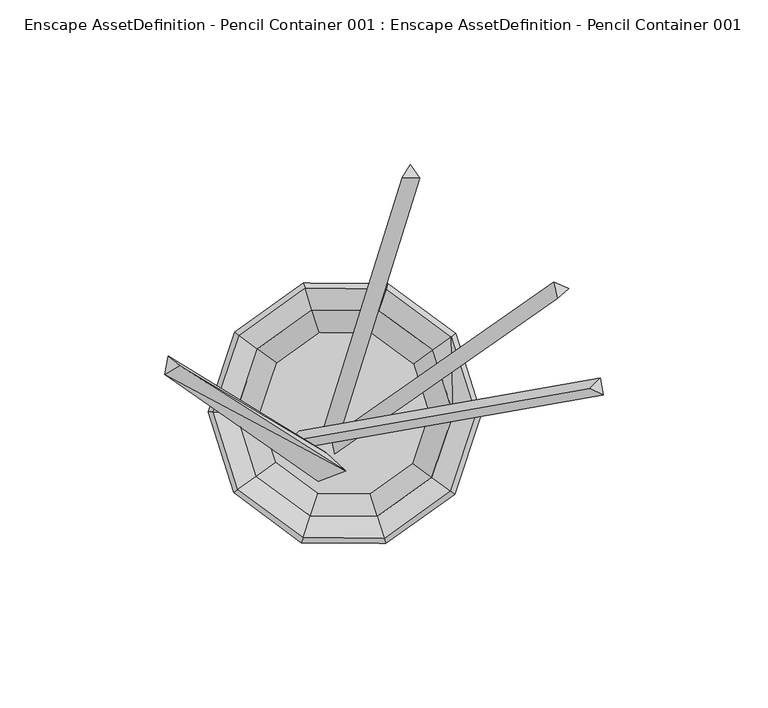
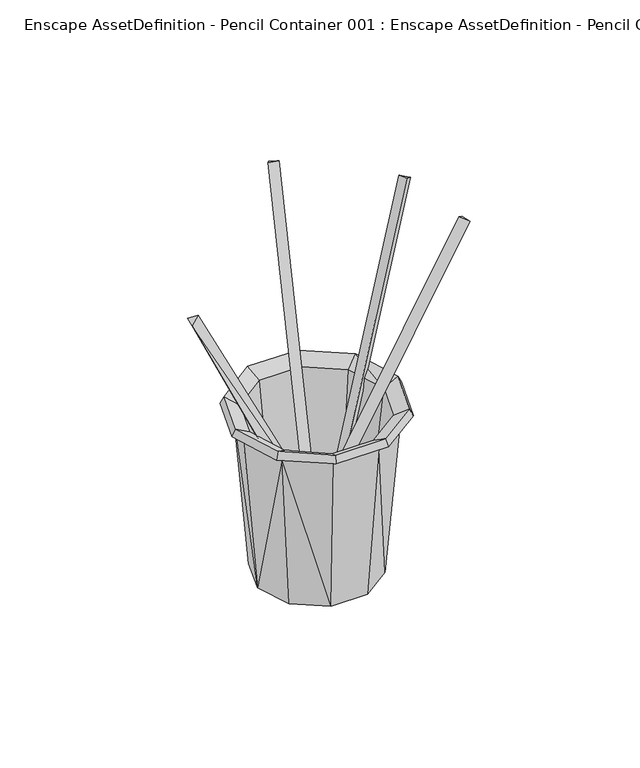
"""IFC4 building model written with IfcOpenShell, lengths in millimetres: geographic element geometry, Enscape AssetDefinition - Pencil Container 001 : Enscape AssetDefinition - Pencil Container 001."""

from ifc_helpers import new_model, si_unit, origin, place, context, project, spatial, triangles, source, transform, mapped, element, save


def enscape_assetdefinition_pencil_container_001_enscape_4b7912f9(model_context):
    return source(origin(), model_context, "Body", "Tessellation", [
        triangles([(-23.666129, 17.1942709, 0.0), (-9.0392392, 27.8211784, 0.0), (9.0392392, 27.8211784, 0.0), (-10.8405152, 34.2406584, 79.219138), (-12.5360137, 39.5962204, 82.6296493), (13.1326729, 39.402128, 82.6296493), (-29.2527498, 0.0, 0.0), (-23.666129, -17.1942709, 0.0), (-9.0392392, -27.8211784, 0.0), (-29.2147547, -20.8902742, 79.219138), (-35.9145956, 0.2711155, 79.219138), (-33.4149889, 24.6653526, 82.6286229), (-41.5320262, 0.3142476, 82.6296493), (-13.1326729, -39.402128, 82.6296493), (-33.7836664, -24.158039, 82.6286229), (-32.4260367, -23.1865412, 86.1243761), (-39.8622017, 0.3019241, 86.1243761), (-32.0717365, 23.6733188, 86.1243761), (-12.0317783, 38.0044435, 86.1243761), (-26.525166, 19.5788558, 82.1942199), (-32.9682684, 0.2495495, 82.1952554), (-20.9416224, -14.9739986, 16.2104499), (-25.7446813, 0.1940941, 16.2104499), (-20.7136385, 15.2892739, 16.2104499), (-9.951172, 31.430919, 82.1942199), (-7.7709516, 24.5441709, 16.2104499), (20.9416224, 14.9739986, 16.2104499), (8.140655, 24.4240179, 16.2104499), (10.4245976, 31.2768745, 82.1942199), (20.7136385, -15.2892739, 16.2104499), (12.6048197, 37.8175386, 86.1243761), (26.8178466, 19.1752626, 82.1942199), (32.4260367, 23.1865412, 86.1243761), (-28.8953702, 21.3287831, 79.219138), (33.7836664, 24.158039, 82.6286229), (11.3570716, 34.0732677, 79.219138), (23.666129, 17.1942709, 0.0), (29.2147547, 20.8902742, 79.219138), (41.5320262, -0.3142476, 82.6296493), (35.9145956, -0.2711155, 79.219138), (28.8963966, -21.3298095, 79.219138), (33.4160176, -24.6653526, 82.6296493), (29.2527498, 0.0, 0.0), (0.0, 0.0, 0.0), (23.666129, -17.1942709, 0.0), (10.8405152, -34.2406584, 79.219138), (9.0392392, -27.8211784, 0.0), (-11.3570716, -34.0732677, 79.219138), (12.5360137, -39.5962204, 82.6296493), (12.0317783, -38.0044435, 86.1243761), (-26.8178466, -19.1752626, 82.1942199), (-12.6048197, -37.8175386, 86.1243761), (32.072763, -23.6733188, 86.1254025), (-10.4245976, -31.2768745, 82.1942199), (7.7709516, -24.5441709, 16.2104499), (-8.140655, -24.4240179, 16.2104499), (9.951172, -31.430919, 82.1952554), (39.8622017, -0.3008972, 86.1243761), (26.525166, -19.5788558, 82.1952554), (32.9672396, -0.2495495, 82.1952554), (25.7436526, -0.1940941, 16.2104499), (-8.0543917, -20.736232, 23.4843564), (0.2505765, -17.5988917, 26.108222), (-53.5453236, 17.4109581, 138.1806099), (-54.735558, 11.7750409, 138.2607104), (-50.1389181, 14.4276611, 140.5015257), (-5.7807172, -11.8808178, 22.0312179), (64.6559236, 34.8917474, 159.2434231), (68.1177808, 37.883264, 156.6339349), (63.4893024, 39.9114946, 158.1106798), (-4.1386197, -7.2852033, 18.5940083), (-2.9627589, -12.3614309, 19.7421407), (0.5247729, -9.361702, 17.0371459), (-3.7052457, -0.1129648, 17.5537057), (17.5270052, 71.689524, 161.3856434), (22.741869, 71.5344554, 160.6739681), (-6.1822563, -4.0934343, 20.1036285), (19.9701246, 75.6278874, 158.8644673), (-0.9057724, -4.2957435, 19.3282783), (77.7043867, 10.7491156, 149.562328), (-12.8707987, -10.6217729, 16.8502421), (-13.7971116, -5.3668554, 16.8502421), (74.5126166, 7.4916206, 152.2385636), (78.6276134, 5.5332214, 149.5602751), (-17.0617947, -8.6510509, 19.500806)], [[83, 82, 85], [81, 85, 82], [85, 84, 83], [85, 81, 84], [80, 83, 84], [83, 80, 82], [80, 81, 82], [80, 84, 81], [76, 77, 79], [74, 79, 77], [78, 79, 74], [78, 76, 79], [76, 78, 75], [76, 75, 77], [75, 74, 77], [75, 78, 74], [73, 71, 70], [72, 71, 73], [68, 71, 72], [68, 70, 71], [73, 70, 69], [69, 70, 68], [69, 72, 73], [69, 68, 72], [66, 67, 64], [66, 63, 67], [62, 67, 63], [64, 65, 66], [65, 67, 62], [65, 64, 67], [65, 63, 66], [65, 62, 63], [59, 61, 30], [59, 60, 61], [58, 60, 59], [58, 59, 53], [57, 59, 30], [53, 59, 57], [57, 30, 55], [56, 55, 30], [51, 56, 22], [54, 55, 56], [54, 57, 55], [51, 54, 56], [50, 57, 54], [53, 57, 50], [42, 53, 50], [50, 54, 52], [52, 51, 16], [52, 54, 51], [14, 52, 16], [49, 52, 14], [49, 50, 52], [42, 50, 49], [46, 14, 48], [46, 49, 14], [9, 46, 48], [9, 47, 46], [41, 49, 46], [41, 42, 49], [46, 45, 41], [46, 47, 45], [47, 9, 44], [45, 47, 44], [3, 37, 44], [37, 43, 44], [43, 45, 44], [41, 45, 43], [40, 42, 41], [41, 43, 40], [39, 53, 42], [39, 58, 53], [40, 39, 42], [38, 39, 40], [38, 37, 3], [43, 38, 40], [43, 37, 38], [38, 3, 36], [35, 58, 39], [38, 35, 39], [36, 35, 38], [33, 60, 58], [35, 33, 58], [6, 33, 35], [36, 6, 35], [34, 12, 5], [12, 19, 5], [5, 31, 6], [5, 19, 31], [6, 31, 33], [33, 32, 60], [31, 32, 33], [30, 61, 27], [60, 27, 61], [60, 32, 27], [32, 28, 27], [32, 29, 28], [19, 29, 31], [31, 29, 32], [56, 30, 26], [30, 27, 26], [27, 28, 26], [29, 26, 28], [29, 25, 26], [19, 25, 29], [25, 24, 26], [23, 56, 26], [23, 22, 56], [24, 23, 26], [21, 22, 23], [21, 51, 22], [16, 51, 21], [20, 23, 24], [20, 21, 23], [25, 20, 24], [18, 25, 19], [18, 20, 25], [12, 18, 19], [16, 21, 17], [17, 20, 18], [17, 21, 20], [15, 16, 17], [14, 16, 15], [48, 14, 15], [15, 17, 13], [13, 18, 12], [13, 17, 18], [11, 12, 34], [11, 13, 12], [10, 13, 11], [10, 15, 13], [48, 15, 10], [10, 9, 48], [9, 8, 44], [10, 8, 9], [8, 7, 44], [34, 7, 11], [7, 10, 11], [7, 8, 10], [7, 1, 44], [34, 1, 7], [2, 3, 44], [1, 2, 44], [4, 6, 36], [4, 5, 6], [34, 5, 4], [3, 4, 36], [3, 2, 4], [4, 1, 34], [4, 2, 1]]),
    ])


if __name__ == "__main__":
    model = new_model("IFC4")
    model_context = context("Model", 3, world=origin())
    ifc_project = project(units=[si_unit("LENGTHUNIT", "METRE", prefix="MILLI")], contexts=[model_context])
    site = spatial("IfcSite", under=ifc_project)
    building = spatial("IfcBuilding", under=site)
    placement = place(None, origin())
    enscape_assetdefinition_pencil_container_001_enscape_shape = enscape_assetdefinition_pencil_container_001_enscape_4b7912f9(model_context)
    element("IfcGeographicElement", 1, ObjectType="Enscape AssetDefinition - Pencil Container 001 : Enscape AssetDefinition - Pencil Container 001", at=placement, inside=building, context=model_context, shape_type="MappedRepresentation", body=[
        mapped(enscape_assetdefinition_pencil_container_001_enscape_shape, transform((0.0, 0.0, 0.0), x_axis=(1.0, 0.0, 0.0), y_axis=(0.0, 1.0, 0.0), z_axis=(0.0, 0.0, 1.0))),
    ])
    save(model, "model.ifc")
